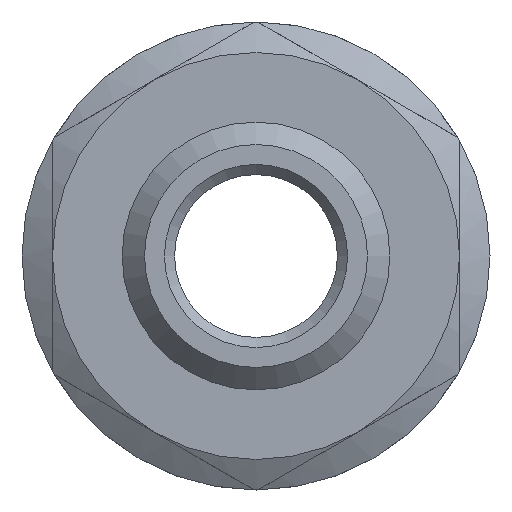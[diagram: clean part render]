
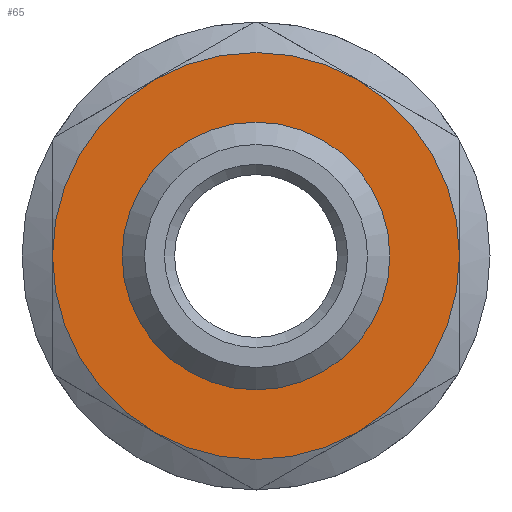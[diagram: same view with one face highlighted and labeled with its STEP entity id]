
A CAD part, front view. The second image highlights one B-rep face of the part: STEP entity #65.
In plain terms, the highlighted planar face has unit normal (0, -1, 0).
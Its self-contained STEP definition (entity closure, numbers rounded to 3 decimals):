
#65=ADVANCED_FACE('',(#233,#235),#237,.F.);
#233=FACE_BOUND('',#234,.T.);
#234=EDGE_LOOP('',(#370));
#235=FACE_BOUND('',#236,.T.);
#236=EDGE_LOOP('',(#371));
#237=PLANE('',#238);
#238=AXIS2_PLACEMENT_3D('',#239,#240,#241);
#239=CARTESIAN_POINT('',(0.,-10.,0.));
#240=DIRECTION('',(0.,1.,0.));
#241=DIRECTION('',(-1.,0.,0.));
#370=ORIENTED_EDGE('',*,*,#430,.T.);
#371=ORIENTED_EDGE('',*,*,#429,.F.);
#429=EDGE_CURVE('',#517,#517,#518,.T.);
#430=EDGE_CURVE('',#507,#507,#519,.F.);
#507=VERTEX_POINT('',#858);
#517=VERTEX_POINT('',#1227);
#518=CIRCLE('',#1228,6.579);
#519=CIRCLE('',#1232,10.);
#858=CARTESIAN_POINT('',(10.,-10.,0.));
#1227=CARTESIAN_POINT('',(6.579,-10.,0.));
#1228=AXIS2_PLACEMENT_3D('',#1229,#1230,#1231);
#1229=CARTESIAN_POINT('',(0.,-10.,0.));
#1230=DIRECTION('',(0.,-1.,0.));
#1231=DIRECTION('',(1.,0.,0.));
#1232=AXIS2_PLACEMENT_3D('',#1233,#1234,#1235);
#1233=CARTESIAN_POINT('',(0.,-10.,0.));
#1234=DIRECTION('',(0.,1.,0.));
#1235=DIRECTION('',(1.,0.,0.));
